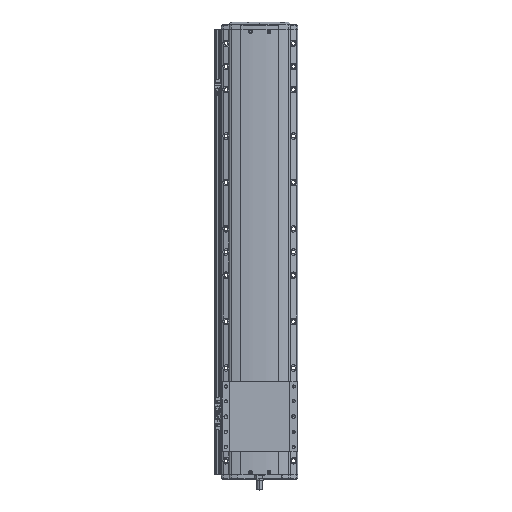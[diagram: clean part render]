
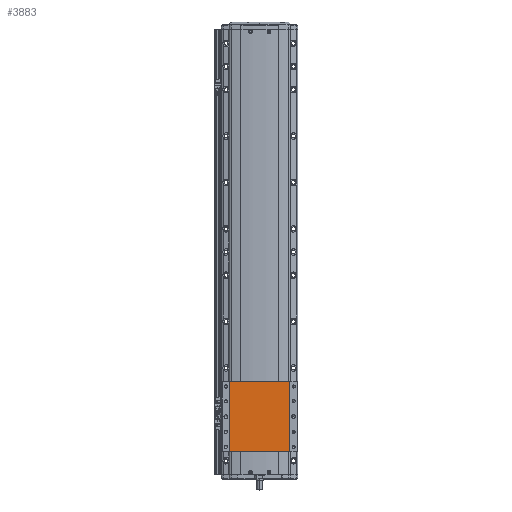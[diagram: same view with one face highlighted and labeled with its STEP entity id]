
A CAD part, top view. The second image highlights one B-rep face of the part: STEP entity #3883.
In plain terms, the highlighted planar face has unit normal (0, 0, 1).
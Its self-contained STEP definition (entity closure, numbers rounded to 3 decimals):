
#3883=ADVANCED_FACE('',(#9515),#9516,.F.);
#9515=FACE_OUTER_BOUND('',#17816,.T.);
#9516=PLANE('',#17817);
#17816=EDGE_LOOP('',(#30105,#30106,#30107,#30108));
#17817=AXIS2_PLACEMENT_3D('',#30109,#30110,#30111);
#30105=ORIENTED_EDGE('',*,*,#50718,.F.);
#30106=ORIENTED_EDGE('',*,*,#50719,.F.);
#30107=ORIENTED_EDGE('',*,*,#50720,.F.);
#30108=ORIENTED_EDGE('',*,*,#50721,.T.);
#30109=CARTESIAN_POINT('',(-600.,22.222,51.5));
#30110=DIRECTION('',(0.,0.,-1.0));
#30111=DIRECTION('',(-1.0,0.,0.));
#50718=EDGE_CURVE('',#61579,#61580,#61581,.T.);
#50719=EDGE_CURVE('',#61582,#61579,#61583,.T.);
#50720=EDGE_CURVE('',#61584,#61582,#61585,.T.);
#50721=EDGE_CURVE('',#61584,#61580,#61586,.T.);
#61579=VERTEX_POINT('',#76833);
#61580=VERTEX_POINT('',#76834);
#61581=LINE('',#76835,#76836);
#61582=VERTEX_POINT('',#76837);
#61583=LINE('',#76838,#76839);
#61584=VERTEX_POINT('',#76840);
#61585=LINE('',#76841,#76842);
#61586=LINE('',#76843,#76844);
#76833=CARTESIAN_POINT('',(-664.376,172.222,51.5));
#76834=CARTESIAN_POINT('',(-535.624,172.222,51.5));
#76835=CARTESIAN_POINT('',(-535.624,172.222,51.5));
#76836=VECTOR('',#92742,10.0);
#76837=CARTESIAN_POINT('',(-664.376,22.222,51.5));
#76838=CARTESIAN_POINT('',(-664.376,22.222,51.5));
#76839=VECTOR('',#92743,10.0);
#76840=CARTESIAN_POINT('',(-535.624,22.222,51.5));
#76841=CARTESIAN_POINT('',(-535.624,22.222,51.5));
#76842=VECTOR('',#92744,10.0);
#76843=CARTESIAN_POINT('',(-535.624,22.222,51.5));
#76844=VECTOR('',#92745,10.0);
#92742=DIRECTION('',(1.0,0.,0.));
#92743=DIRECTION('',(0.,1.0,0.));
#92744=DIRECTION('',(-1.0,0.,0.));
#92745=DIRECTION('',(0.,1.0,0.));
